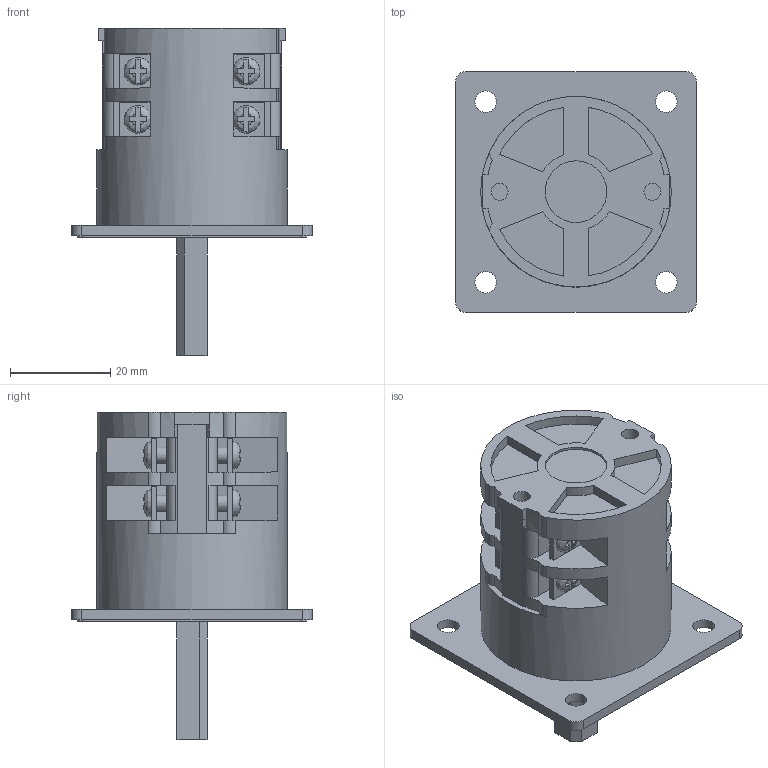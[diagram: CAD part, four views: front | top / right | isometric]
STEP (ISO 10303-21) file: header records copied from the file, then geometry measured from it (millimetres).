
FILE_DESCRIPTION(/* description */ (''),/* implementation_level */ '2;1');
FILE_NAME(/* name */ '4G10-U_standard_2_korpusy.stp',/* time_stamp */ '2021-07-21T07:25:56+02:00',/* author */ (''),/* organization */ (''),/* preprocessor_version */ 'ST-DEVELOPER v18.1',/* originating_system */ 'SIEMENS PLM Software NX 1965',/* authorisation */ '');
FILE_SCHEMA (('AUTOMOTIVE_DESIGN { 1 0 10303 214 3 1 1 1 }'));
Length unit declared in the file: millimetre
Products named in the file (1): 4G10-U_standard_2_korpusy_stp
Bounding box: 48 x 48 x 65.3 mm (x, y, z)
Volume: 43703.9 mm3; surface area: 15625.1 mm2
Topology: 1 solids, 1 shells, 417 faces, 1106 edges, 732 vertices
Faces by surface type: plane 318, cylinder 89, bspline 8, torus 2
Full cylindrical faces by diameter (mm): 3.2 x8, 3.4 x3, 4.3 x4, 6.2 x2, 7.2 x4, 12.3 x1, 16.2 x1, 16.8 x1, 38 x1
Entity records: 12835 total; most frequent: CARTESIAN_POINT 2641, ORIENTED_EDGE 2094, DIRECTION 2061, EDGE_CURVE 1047, VERTEX_POINT 708, AXIS2_PLACEMENT_3D 688, LINE 685, VECTOR 685
